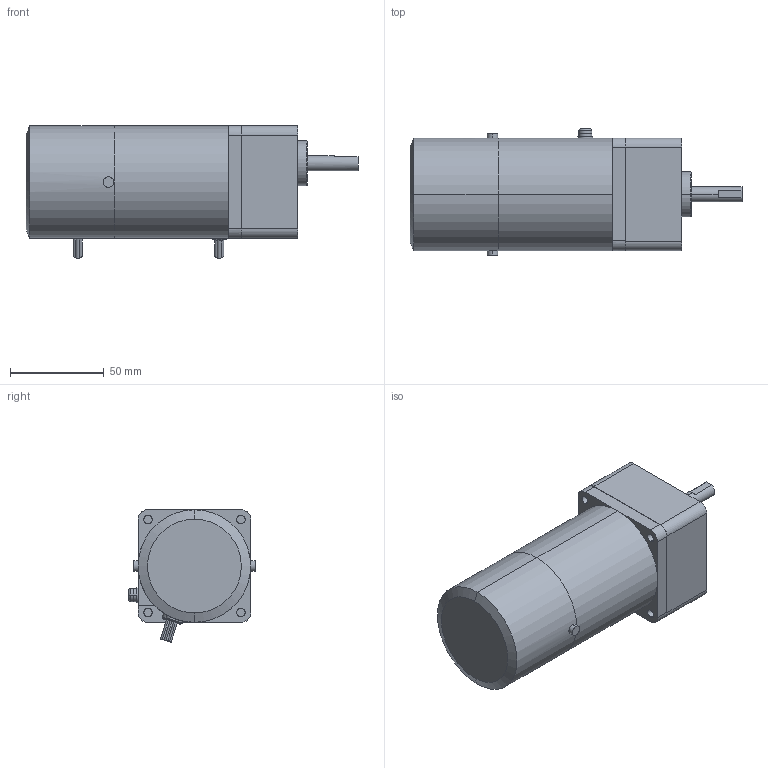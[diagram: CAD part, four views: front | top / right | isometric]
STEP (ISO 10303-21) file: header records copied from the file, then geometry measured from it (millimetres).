
FILE_DESCRIPTION(('starvars output'),'2;1');
FILE_NAME('2RK6GN-CW2ME _ 2GN3SA.stp','14:06:59 2015/05/11',( 'Thomas Industrial Network Germany GmbH'),( 'Thomas Industrial Network Germany GmbH'),'unknown preprocess','ACIS' ,'unknown authorization');
FILE_SCHEMA(('AUTOMOTIVE_DESIGN_CC2 {UNKNOWN IMPLEMENTATION LEVEL}'));
Length unit declared in the file: millimetre
Products named in the file (1): PRODUCT_ID_1905
Bounding box: 177 x 67.4 x 70.61 mm (x, y, z)
Volume: 436291.4 mm3; surface area: 40317.4 mm2
Topology: 1 solids, 1 shells, 138 faces, 307 edges, 196 vertices
Faces by surface type: cylinder 68, plane 58, torus 10, cone 2
Entity records: 4723 total; most frequent: CARTESIAN_POINT 813, ORIENTED_EDGE 614, DIRECTION 503, EDGE_CURVE 307, VERTEX_POINT 196, AXIS2_PLACEMENT_3D 193, EDGE_LOOP 163, FACE_BOUND 163
